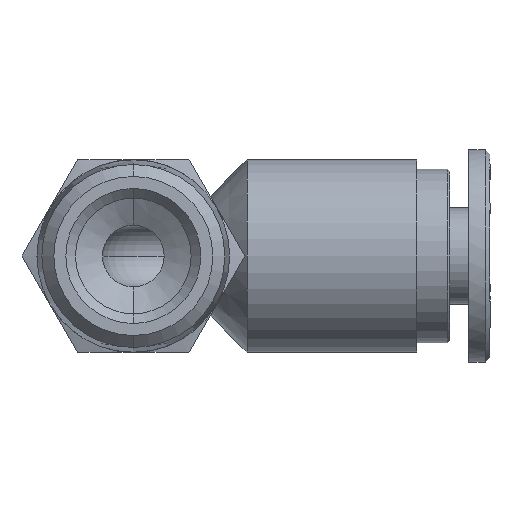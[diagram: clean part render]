
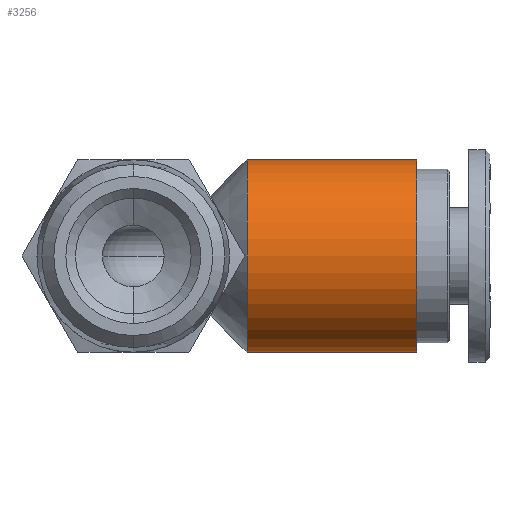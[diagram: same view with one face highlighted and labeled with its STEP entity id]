
A CAD part, front view. The second image highlights one B-rep face of the part: STEP entity #3256.
In plain terms, the highlighted cylindrical face has radius 5 mm (diameter 10 mm), a partial arc.
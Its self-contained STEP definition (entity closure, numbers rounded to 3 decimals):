
#74 = EDGE_CURVE ( 'NONE', #2816, #872, #336, .T. ) ;
#76 = DIRECTION ( 'NONE',  ( -1., 0., 0. ) ) ;
#92 = EDGE_CURVE ( 'NONE', #1583, #3229, #936, .T. ) ;
#229 = AXIS2_PLACEMENT_3D ( 'NONE', #1614, #76, #1869 ) ;
#253 = VECTOR ( 'NONE', #2984, 1000. ) ;
#336 = LINE ( 'NONE', #1465, #1691 ) ;
#346 = DIRECTION ( 'NONE',  ( -1., 0., 0. ) ) ;
#455 = CARTESIAN_POINT ( 'NONE',  ( 5.9, 16.5, 0. ) ) ;
#467 = CIRCLE ( 'NONE', #229, 5. ) ;
#495 = DIRECTION ( 'NONE',  ( -1., 0., 0. ) ) ;
#593 = DIRECTION ( 'NONE',  ( 0., 0., 1. ) ) ;
#639 = DIRECTION ( 'NONE',  ( 0., 0., 1. ) ) ;
#837 = CARTESIAN_POINT ( 'NONE',  ( 5.9, 16.5, -5. ) ) ;
#872 = VERTEX_POINT ( 'NONE', #1615 ) ;
#896 = CYLINDRICAL_SURFACE ( 'NONE', #1755, 5. ) ;
#898 = DIRECTION ( 'NONE',  ( -1., 0., 0. ) ) ;
#936 = LINE ( 'NONE', #1205, #253 ) ;
#1153 = EDGE_CURVE ( 'NONE', #3229, #872, #2814, .T. ) ;
#1205 = CARTESIAN_POINT ( 'NONE',  ( -0.433, 16.5, -5. ) ) ;
#1465 = CARTESIAN_POINT ( 'NONE',  ( -0.433, 16.5, 5. ) ) ;
#1517 = CARTESIAN_POINT ( 'NONE',  ( 14.7, 16.5, -5. ) ) ;
#1575 = FACE_OUTER_BOUND ( 'NONE', #1710, .T. ) ;
#1583 = VERTEX_POINT ( 'NONE', #1517 ) ;
#1614 = CARTESIAN_POINT ( 'NONE',  ( 14.7, 16.5, 0. ) ) ;
#1615 = CARTESIAN_POINT ( 'NONE',  ( 5.9, 16.5, 5. ) ) ;
#1691 = VECTOR ( 'NONE', #898, 1000. ) ;
#1710 = EDGE_LOOP ( 'NONE', ( #1801, #2686, #2630, #2934 ) ) ;
#1755 = AXIS2_PLACEMENT_3D ( 'NONE', #1865, #346, #593 ) ;
#1801 = ORIENTED_EDGE ( 'NONE', *, *, #92, .F. ) ;
#1845 = CARTESIAN_POINT ( 'NONE',  ( 14.7, 16.5, 5. ) ) ;
#1865 = CARTESIAN_POINT ( 'NONE',  ( -0.433, 16.5, 0. ) ) ;
#1869 = DIRECTION ( 'NONE',  ( 0., 0., 1. ) ) ;
#2338 = EDGE_CURVE ( 'NONE', #1583, #2816, #467, .T. ) ;
#2630 = ORIENTED_EDGE ( 'NONE', *, *, #74, .T. ) ;
#2686 = ORIENTED_EDGE ( 'NONE', *, *, #2338, .T. ) ;
#2707 = AXIS2_PLACEMENT_3D ( 'NONE', #455, #495, #639 ) ;
#2814 = CIRCLE ( 'NONE', #2707, 5. ) ;
#2816 = VERTEX_POINT ( 'NONE', #1845 ) ;
#2934 = ORIENTED_EDGE ( 'NONE', *, *, #1153, .F. ) ;
#2984 = DIRECTION ( 'NONE',  ( -1., 0., 0. ) ) ;
#3229 = VERTEX_POINT ( 'NONE', #837 ) ;
#3256 = ADVANCED_FACE ( 'NONE', ( #1575 ), #896, .T. ) ;
